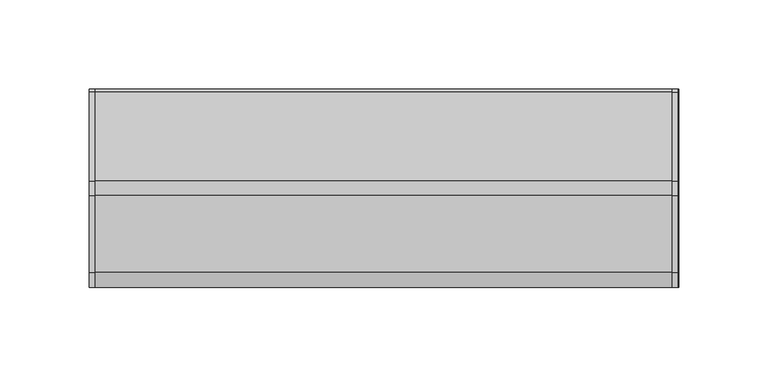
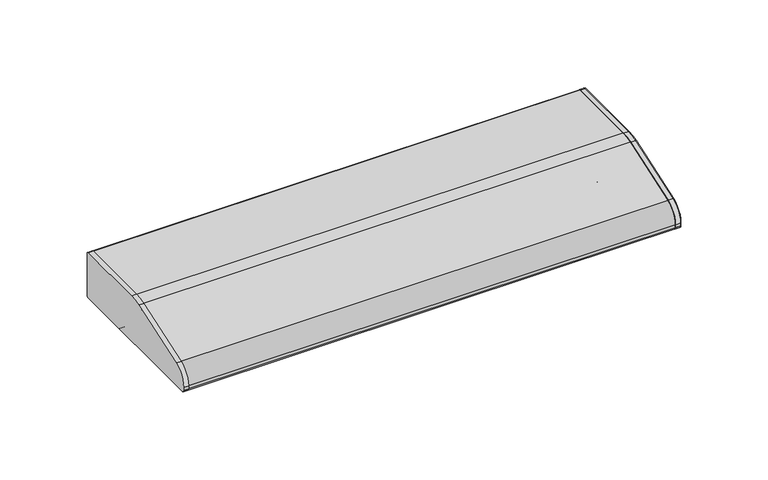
"""IFC4 building model written with IfcOpenShell, lengths in millimetres: light fixture geometry, HermanMiller_SupplementalProducts_G6136_UtilityTaskLight : AO Etho Canvas 24W."""

from ifc_helpers import new_model, si_unit, point, frame, frame_2d, origin, place, context, project, spatial, polyline, circle_curve, trimmed, segment, composite_curve, outline, extrude, source, transform, mapped, element, save


def light_fixture_6c250f8a(model_context):
    return source(origin(), model_context, "Body", "SweptSolid", [
        extrude(outline(composite_curve([segment(polyline([(53.975, 1308.1), (-53.975, 1308.1)]), True, "CONTINUOUS"), segment(trimmed(circle_curve(frame_2d((-53.975, 1309.6875)), 1.5875), [point((-53.975, 1308.1))], [point((-55.5625, 1309.6875))], False, "CARTESIAN"), True, "CONTINUOUS"), segment(polyline([(-55.5625, 1309.6875), (-55.5625, 1311.7285714)]), True, "CONTINUOUS"), segment(trimmed(circle_curve(frame_2d((-42.8625, 1311.7285714)), 12.7), [point((-55.5625, 1311.7285714))], [point((-46.9814189, 1323.7420849))], False, "CARTESIAN"), True, "CONTINUOUS"), segment(polyline([(-46.9814189, 1323.7420849), (-4.0045045, 1338.477027)]), True, "CONTINUOUS"), segment(trimmed(circle_curve(frame_2d((4.2333333, 1314.45)), 25.4), [point((-4.0045045, 1338.477027))], [point((4.2333333, 1339.85))], False, "CARTESIAN"), True, "CONTINUOUS"), segment(polyline([(4.2333333, 1339.85), (53.975, 1339.85)]), True, "CONTINUOUS"), segment(trimmed(circle_curve(frame_2d((53.975, 1338.2625)), 1.5875), [point((53.975, 1339.85))], [point((55.5625, 1338.2625))], False, "CARTESIAN"), True, "CONTINUOUS"), segment(polyline([(55.5625, 1338.2625), (55.5625, 1309.6875)]), True, "CONTINUOUS"), segment(trimmed(circle_curve(frame_2d((53.975, 1309.6875)), 1.5875), [point((55.5625, 1309.6875))], [point((53.975, 1308.1))], False, "CARTESIAN"), True, "CONTINUOUS")], self_intersect=False)), frame((161.544, 0.0, 0.0), z_axis=(1.0, 0.0, 0.0), x_axis=(0.0, 1.0, 0.0)), (0.0, 0.0, 1.0), 3.175),
        extrude(outline(composite_curve([segment(trimmed(circle_curve(frame_2d((53.975, 1338.2625)), 1.5875), [point((53.975, 1339.85))], [point((55.5625, 1338.2625))], False, "CARTESIAN"), True, "CONTINUOUS"), segment(polyline([(55.5625, 1338.2625), (55.5625, 1309.6875)]), True, "CONTINUOUS"), segment(trimmed(circle_curve(frame_2d((53.975, 1309.6875)), 1.5875), [point((55.5625, 1309.6875))], [point((53.975, 1308.1))], False, "CARTESIAN"), True, "CONTINUOUS"), segment(polyline([(53.975, 1308.1), (-53.975, 1308.1)]), True, "CONTINUOUS"), segment(trimmed(circle_curve(frame_2d((-53.975, 1309.6875)), 1.5875), [point((-53.975, 1308.1))], [point((-55.5625, 1309.6875))], False, "CARTESIAN"), True, "CONTINUOUS"), segment(polyline([(-55.5625, 1309.6875), (-55.5625, 1311.7285714)]), True, "CONTINUOUS"), segment(trimmed(circle_curve(frame_2d((-42.8625, 1311.7285714)), 12.7), [point((-55.5625, 1311.7285714))], [point((-46.9814189, 1323.7420849))], False, "CARTESIAN"), True, "CONTINUOUS"), segment(polyline([(-46.9814189, 1323.7420849), (-4.0045045, 1338.477027)]), True, "CONTINUOUS"), segment(trimmed(circle_curve(frame_2d((4.2333333, 1314.45)), 25.4), [point((-4.0045045, 1338.477027))], [point((4.2333333, 1339.85))], False, "CARTESIAN"), True, "CONTINUOUS"), segment(polyline([(4.2333333, 1339.85), (53.975, 1339.85)]), True, "CONTINUOUS")], self_intersect=False)), frame((-164.719, 0.0, 0.0), z_axis=(1.0, 0.0, 0.0), x_axis=(0.0, 1.0, 0.0)), (0.0, 0.0, 1.0), 3.175),
        extrude(outline(composite_curve([segment(polyline([(55.5625, 1338.2625), (55.5625, 1309.6875)]), True, "CONTINUOUS"), segment(trimmed(circle_curve(frame_2d((53.975, 1309.6875)), 1.5875), [point((55.5625, 1309.6875))], [point((53.975, 1308.1))], False, "CARTESIAN"), True, "CONTINUOUS"), segment(polyline([(53.975, 1308.1), (19.05, 1308.1)]), True, "CONTINUOUS"), segment(trimmed(circle_curve(frame_2d((19.05, 1309.6875)), 1.5875), [point((19.05, 1308.1))], [point((17.4625, 1309.6875))], False, "CARTESIAN"), True, "CONTINUOUS"), segment(polyline([(17.4625, 1309.6875), (17.4625, 1338.2625), (4.4979167, 1338.2625)]), True, "CONTINUOUS"), segment(trimmed(circle_curve(frame_2d((4.4979167, 1312.8625)), 25.4), [point((4.4979167, 1338.2625))], [point((-3.7399212, 1336.889527))], True, "CARTESIAN"), True, "CONTINUOUS"), segment(polyline([(-3.7399212, 1336.889527), (-37.4564189, 1325.3295849)]), True, "CONTINUOUS"), segment(trimmed(circle_curve(frame_2d((-33.3375, 1313.3160714)), 12.7), [point((-37.4564189, 1325.3295849))], [point((-46.0375, 1313.3160714))], True, "CARTESIAN"), True, "CONTINUOUS"), segment(polyline([(-46.0375, 1313.3160714), (-46.0375, 1309.6875)]), True, "CONTINUOUS"), segment(trimmed(circle_curve(frame_2d((-47.625, 1309.6875)), 1.5875), [point((-46.0375, 1309.6875))], [point((-47.625, 1308.1))], False, "CARTESIAN"), True, "CONTINUOUS"), segment(polyline([(-47.625, 1308.1), (-53.975, 1308.1)]), True, "CONTINUOUS"), segment(trimmed(circle_curve(frame_2d((-53.975, 1309.6875)), 1.5875), [point((-53.975, 1308.1))], [point((-55.5625, 1309.6875))], False, "CARTESIAN"), True, "CONTINUOUS"), segment(polyline([(-55.5625, 1309.6875), (-55.5625, 1311.7285714)]), True, "CONTINUOUS"), segment(trimmed(circle_curve(frame_2d((-42.8625, 1311.7285714)), 12.7), [point((-55.5625, 1311.7285714))], [point((-46.9814189, 1323.7420849))], False, "CARTESIAN"), True, "CONTINUOUS"), segment(polyline([(-46.9814189, 1323.7420849), (-4.0045045, 1338.477027)]), True, "CONTINUOUS"), segment(trimmed(circle_curve(frame_2d((4.2333333, 1314.45)), 25.4), [point((-4.0045045, 1338.477027))], [point((4.2333333, 1339.85))], False, "CARTESIAN"), True, "CONTINUOUS"), segment(polyline([(4.2333333, 1339.85), (53.975, 1339.85)]), True, "CONTINUOUS"), segment(trimmed(circle_curve(frame_2d((53.975, 1338.2625)), 1.5875), [point((53.975, 1339.85))], [point((55.5625, 1338.2625))], False, "CARTESIAN"), True, "CONTINUOUS")], self_intersect=False)), frame((-164.719, 0.0, 0.0), z_axis=(1.0, 0.0, 0.0), x_axis=(0.0, 1.0, 0.0)), (0.0, 0.0, 1.0), 329.9040011),
        extrude(outline(composite_curve([segment(trimmed(circle_curve(frame_2d((1.5875, 1325.5625)), 9.525), [point((-7.9375, 1325.5625))], [point((11.1125, 1325.5625))], False, "CARTESIAN"), True, "CONTINUOUS"), segment(trimmed(circle_curve(frame_2d((1.5875, 1325.5625)), 9.525), [point((11.1125, 1325.5625))], [point((-7.9375, 1325.5625))], False, "CARTESIAN"), True, "CONTINUOUS")], self_intersect=False)), frame((139.319, 0.0, 0.0), z_axis=(1.0, 0.0, 0.0), x_axis=(0.0, 1.0, 0.0)), (0.0, 0.0, 1.0), 12.7),
        extrude(outline(composite_curve([segment(trimmed(circle_curve(frame_2d((1.5875, 1325.5625)), 9.525), [point((-7.9375, 1325.5625))], [point((11.1125, 1325.5625))], False, "CARTESIAN"), True, "CONTINUOUS"), segment(trimmed(circle_curve(frame_2d((1.5875, 1325.5625)), 9.525), [point((11.1125, 1325.5625))], [point((-7.9375, 1325.5625))], False, "CARTESIAN"), True, "CONTINUOUS")], self_intersect=False)), frame((-152.019, 0.0, 0.0), z_axis=(1.0, 0.0, 0.0), x_axis=(0.0, 1.0, 0.0)), (0.0, 0.0, 1.0), 12.7),
        extrude(outline(composite_curve([segment(trimmed(circle_curve(frame_2d((1.5875, 1325.5625)), 9.525), [point((-7.9375, 1325.5625))], [point((11.1125, 1325.5625))], False, "CARTESIAN"), True, "CONTINUOUS"), segment(trimmed(circle_curve(frame_2d((1.5875, 1325.5625)), 9.525), [point((11.1125, 1325.5625))], [point((-7.9375, 1325.5625))], False, "CARTESIAN"), True, "CONTINUOUS")], self_intersect=False)), frame((-139.319, 0.0, 0.0), z_axis=(1.0, 0.0, 0.0), x_axis=(0.0, 1.0, 0.0)), (0.0, 0.0, 1.0), 278.638),
        extrude(outline(composite_curve([segment(polyline([(17.4625, 1311.275), (-46.0375, 1311.275), (-46.0375, 1313.3160714)]), True, "CONTINUOUS"), segment(trimmed(circle_curve(frame_2d((-33.3375, 1313.3160714)), 12.7), [point((-46.0375, 1313.3160714))], [point((-37.4564189, 1325.3295849))], False, "CARTESIAN"), True, "CONTINUOUS"), segment(polyline([(-37.4564189, 1325.3295849), (-3.7399212, 1336.889527)]), True, "CONTINUOUS"), segment(trimmed(circle_curve(frame_2d((4.4979167, 1312.8625)), 25.4), [point((-3.7399212, 1336.889527))], [point((4.4979167, 1338.2625))], False, "CARTESIAN"), True, "CONTINUOUS"), segment(polyline([(4.4979167, 1338.2625), (17.4625, 1338.2625), (17.4625, 1311.275)]), True, "CONTINUOUS")], self_intersect=False)), frame((152.019, 0.0, 0.0), z_axis=(1.0, 0.0, 0.0), x_axis=(0.0, 1.0, 0.0)), (0.0, 0.0, 1.0), 9.525),
        extrude(outline(composite_curve([segment(polyline([(17.4625, 1311.275), (-46.0375, 1311.275), (-46.0375, 1313.3160714)]), True, "CONTINUOUS"), segment(trimmed(circle_curve(frame_2d((-33.3375, 1313.3160714)), 12.7), [point((-46.0375, 1313.3160714))], [point((-37.4564189, 1325.3295849))], False, "CARTESIAN"), True, "CONTINUOUS"), segment(polyline([(-37.4564189, 1325.3295849), (-3.7399212, 1336.889527)]), True, "CONTINUOUS"), segment(trimmed(circle_curve(frame_2d((4.4979167, 1312.8625)), 25.4), [point((-3.7399212, 1336.889527))], [point((4.4979167, 1338.2625))], False, "CARTESIAN"), True, "CONTINUOUS"), segment(polyline([(4.4979167, 1338.2625), (17.4625, 1338.2625), (17.4625, 1311.275)]), True, "CONTINUOUS")], self_intersect=False)), frame((-161.544, 0.0, 0.0), z_axis=(1.0, 0.0, 0.0), x_axis=(0.0, 1.0, 0.0)), (0.0, 0.0, 1.0), 9.525),
    ])


if __name__ == "__main__":
    model = new_model("IFC4")
    model_context = context("Model", 3, world=origin())
    ifc_project = project(units=[si_unit("LENGTHUNIT", "METRE", prefix="MILLI")], contexts=[model_context])
    site = spatial("IfcSite", under=ifc_project)
    building = spatial("IfcBuilding", under=site)
    placement = place(None, origin())
    light_fixture_shape = light_fixture_6c250f8a(model_context)
    element("IfcLightFixture", 1, ObjectType="HermanMiller_SupplementalProducts_G6136_UtilityTaskLight : AO Etho Canvas 24W", at=placement, inside=building, context=model_context, shape_type="MappedRepresentation", body=[
        mapped(light_fixture_shape, transform((0.0, 0.0, 0.0), x_axis=(1.0, 0.0, 0.0), y_axis=(0.0, 1.0, 0.0), z_axis=(0.0, 0.0, 1.0))),
    ])
    save(model, "model.ifc")
